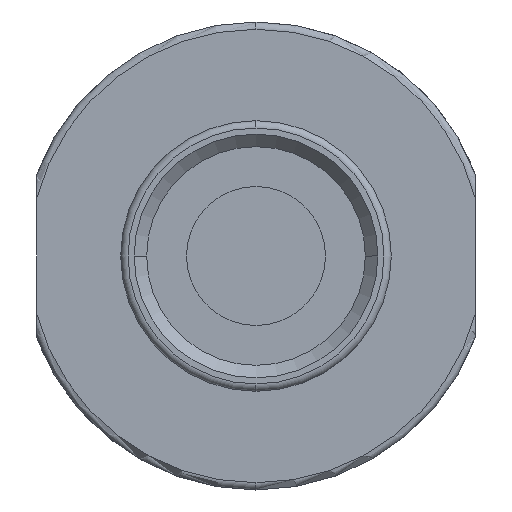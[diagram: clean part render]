
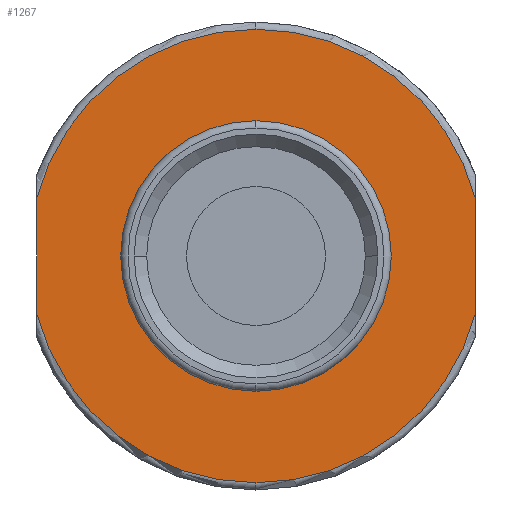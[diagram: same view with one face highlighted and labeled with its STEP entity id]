
A CAD part, left-side view. The second image highlights one B-rep face of the part: STEP entity #1267.
In plain terms, the highlighted planar face has unit normal (-1, 0, 0).
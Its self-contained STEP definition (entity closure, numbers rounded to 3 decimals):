
#9 = VECTOR ( 'NONE', #155, 1000. ) ;
#97 = CARTESIAN_POINT ( 'NONE',  ( 19., 9.25, 0. ) ) ;
#132 = DIRECTION ( 'NONE',  ( -1., 0., 0. ) ) ;
#155 = DIRECTION ( 'NONE',  ( 0., 0., -1. ) ) ;
#168 = DIRECTION ( 'NONE',  ( 0., 0., 1. ) ) ;
#182 = DIRECTION ( 'NONE',  ( 1., 0., 0. ) ) ;
#209 = AXIS2_PLACEMENT_3D ( 'NONE', #259, #1338, #510 ) ;
#211 = CARTESIAN_POINT ( 'NONE',  ( 19., -15., -3.905 ) ) ;
#217 = ORIENTED_EDGE ( 'NONE', *, *, #235, .F. ) ;
#235 = EDGE_CURVE ( 'NONE', #1786, #1432, #1105, .T. ) ;
#258 = FACE_BOUND ( 'NONE', #755, .T. ) ;
#259 = CARTESIAN_POINT ( 'NONE',  ( 19., 0., 0. ) ) ;
#278 = CARTESIAN_POINT ( 'NONE',  ( 19., 0., -15.5 ) ) ;
#285 = VERTEX_POINT ( 'NONE', #211 ) ;
#310 = EDGE_CURVE ( 'NONE', #1091, #713, #1865, .T. ) ;
#313 = DIRECTION ( 'NONE',  ( 0., 1., 0. ) ) ;
#320 = CARTESIAN_POINT ( 'NONE',  ( 19., 15., 0. ) ) ;
#334 = CARTESIAN_POINT ( 'NONE',  ( 19., -15., 0. ) ) ;
#335 = CARTESIAN_POINT ( 'NONE',  ( 19., 15., -3.905 ) ) ;
#347 = DIRECTION ( 'NONE',  ( 0., 1., 0. ) ) ;
#395 = VERTEX_POINT ( 'NONE', #1534 ) ;
#501 = LINE ( 'NONE', #334, #764 ) ;
#510 = DIRECTION ( 'NONE',  ( 0., 1., 0. ) ) ;
#523 = ORIENTED_EDGE ( 'NONE', *, *, #1392, .T. ) ;
#554 = EDGE_CURVE ( 'NONE', #1432, #395, #858, .T. ) ;
#615 = DIRECTION ( 'NONE',  ( 0., 1., 0. ) ) ;
#643 = DIRECTION ( 'NONE',  ( 1., 0., 0. ) ) ;
#656 = ORIENTED_EDGE ( 'NONE', *, *, #554, .F. ) ;
#665 = DIRECTION ( 'NONE',  ( 0., 1., 0. ) ) ;
#671 = ORIENTED_EDGE ( 'NONE', *, *, #1926, .T. ) ;
#683 = PLANE ( 'NONE',  #1021 ) ;
#713 = VERTEX_POINT ( 'NONE', #97 ) ;
#755 = EDGE_LOOP ( 'NONE', ( #1854, #1008 ) ) ;
#764 = VECTOR ( 'NONE', #168, 1000. ) ;
#858 = CIRCLE ( 'NONE', #1310, 15.5 ) ;
#866 = AXIS2_PLACEMENT_3D ( 'NONE', #1245, #1268, #615 ) ;
#871 = DIRECTION ( 'NONE',  ( 1., 0., 0. ) ) ;
#1008 = ORIENTED_EDGE ( 'NONE', *, *, #310, .T. ) ;
#1019 = VERTEX_POINT ( 'NONE', #335 ) ;
#1021 = AXIS2_PLACEMENT_3D ( 'NONE', #1911, #132, #1372 ) ;
#1082 = DIRECTION ( 'NONE',  ( 0., 1., 0. ) ) ;
#1091 = VERTEX_POINT ( 'NONE', #1994 ) ;
#1105 = CIRCLE ( 'NONE', #209, 15.5 ) ;
#1131 = ORIENTED_EDGE ( 'NONE', *, *, #1355, .F. ) ;
#1160 = CIRCLE ( 'NONE', #1638, 15.5 ) ;
#1176 = CARTESIAN_POINT ( 'NONE',  ( 19., 0., 0. ) ) ;
#1211 = CARTESIAN_POINT ( 'NONE',  ( 19., 15., 3.905 ) ) ;
#1244 = AXIS2_PLACEMENT_3D ( 'NONE', #1176, #871, #665 ) ;
#1245 = CARTESIAN_POINT ( 'NONE',  ( 19., 0., 0. ) ) ;
#1256 = DIRECTION ( 'NONE',  ( 1., 0., 0. ) ) ;
#1267 = ADVANCED_FACE ( 'NONE', ( #1812, #258 ), #683, .T. ) ;
#1268 = DIRECTION ( 'NONE',  ( 1., 0., 0. ) ) ;
#1310 = AXIS2_PLACEMENT_3D ( 'NONE', #1436, #643, #347 ) ;
#1338 = DIRECTION ( 'NONE',  ( 1., 0., 0. ) ) ;
#1355 = EDGE_CURVE ( 'NONE', #285, #1894, #1751, .T. ) ;
#1360 = EDGE_LOOP ( 'NONE', ( #671, #656, #217, #523, #1943, #1131 ) ) ;
#1372 = DIRECTION ( 'NONE',  ( 0., 0., 1. ) ) ;
#1385 = LINE ( 'NONE', #320, #9 ) ;
#1392 = EDGE_CURVE ( 'NONE', #1786, #1019, #1385, .T. ) ;
#1408 = CARTESIAN_POINT ( 'NONE',  ( 19., 0., 0. ) ) ;
#1432 = VERTEX_POINT ( 'NONE', #1548 ) ;
#1436 = CARTESIAN_POINT ( 'NONE',  ( 19., 0., 0. ) ) ;
#1454 = CIRCLE ( 'NONE', #866, 9.25 ) ;
#1534 = CARTESIAN_POINT ( 'NONE',  ( 19., -15., 3.905 ) ) ;
#1548 = CARTESIAN_POINT ( 'NONE',  ( 19., 0., 15.5 ) ) ;
#1638 = AXIS2_PLACEMENT_3D ( 'NONE', #1408, #182, #313 ) ;
#1701 = CARTESIAN_POINT ( 'NONE',  ( 19., 0., 0. ) ) ;
#1751 = CIRCLE ( 'NONE', #1895, 15.5 ) ;
#1786 = VERTEX_POINT ( 'NONE', #1211 ) ;
#1812 = FACE_OUTER_BOUND ( 'NONE', #1360, .T. ) ;
#1854 = ORIENTED_EDGE ( 'NONE', *, *, #1934, .T. ) ;
#1865 = CIRCLE ( 'NONE', #1244, 9.25 ) ;
#1894 = VERTEX_POINT ( 'NONE', #278 ) ;
#1895 = AXIS2_PLACEMENT_3D ( 'NONE', #1701, #1256, #1082 ) ;
#1911 = CARTESIAN_POINT ( 'NONE',  ( 19., 12.375, 0. ) ) ;
#1926 = EDGE_CURVE ( 'NONE', #285, #395, #501, .T. ) ;
#1934 = EDGE_CURVE ( 'NONE', #713, #1091, #1454, .T. ) ;
#1943 = ORIENTED_EDGE ( 'NONE', *, *, #1955, .F. ) ;
#1955 = EDGE_CURVE ( 'NONE', #1894, #1019, #1160, .T. ) ;
#1994 = CARTESIAN_POINT ( 'NONE',  ( 19., -9.25, 0. ) ) ;
